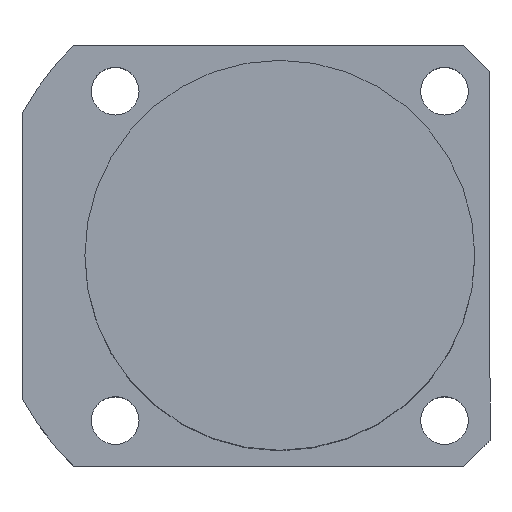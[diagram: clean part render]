
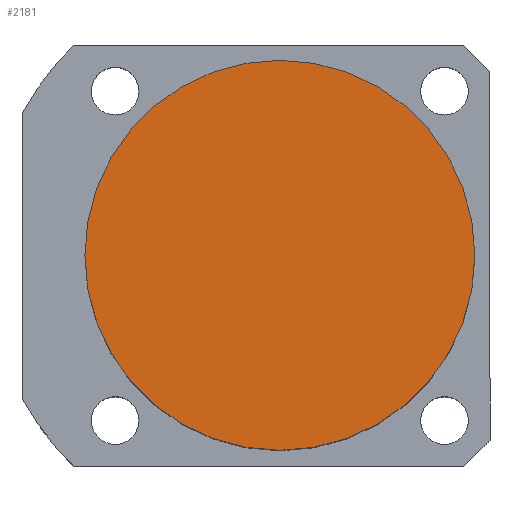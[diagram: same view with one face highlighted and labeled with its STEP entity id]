
A CAD part, top view. The second image highlights one B-rep face of the part: STEP entity #2181.
In plain terms, the highlighted planar face has unit normal (0, 0, 1).
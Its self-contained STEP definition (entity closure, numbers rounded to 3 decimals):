
#141 = DIRECTION ( 'NONE',  ( 0., 0., 1. ) ) ;
#258 = EDGE_LOOP ( 'NONE', ( #1572, #2038 ) ) ;
#329 = EDGE_CURVE ( 'NONE', #783, #432, #752, .T. ) ;
#367 = CIRCLE ( 'NONE', #2030, 45. ) ;
#432 = VERTEX_POINT ( 'NONE', #1901 ) ;
#482 = CARTESIAN_POINT ( 'NONE',  ( 0., 0., 89.5 ) ) ;
#652 = PLANE ( 'NONE',  #1276 ) ;
#658 = DIRECTION ( 'NONE',  ( 1., 0., 0. ) ) ;
#691 = CARTESIAN_POINT ( 'NONE',  ( 0., 0., 89.5 ) ) ;
#717 = FACE_OUTER_BOUND ( 'NONE', #258, .T. ) ;
#752 = CIRCLE ( 'NONE', #2101, 45. ) ;
#783 = VERTEX_POINT ( 'NONE', #995 ) ;
#995 = CARTESIAN_POINT ( 'NONE',  ( -45., 0., 89.5 ) ) ;
#1174 = CARTESIAN_POINT ( 'NONE',  ( 0., 0., 89.5 ) ) ;
#1215 = DIRECTION ( 'NONE',  ( 0., 0., 1. ) ) ;
#1276 = AXIS2_PLACEMENT_3D ( 'NONE', #1174, #141, #658 ) ;
#1340 = DIRECTION ( 'NONE',  ( 0., 0., 1. ) ) ;
#1378 = EDGE_CURVE ( 'NONE', #432, #783, #367, .T. ) ;
#1572 = ORIENTED_EDGE ( 'NONE', *, *, #329, .T. ) ;
#1879 = DIRECTION ( 'NONE',  ( 1., 0., 0. ) ) ;
#1901 = CARTESIAN_POINT ( 'NONE',  ( 45., 0., 89.5 ) ) ;
#2030 = AXIS2_PLACEMENT_3D ( 'NONE', #482, #1340, #2139 ) ;
#2038 = ORIENTED_EDGE ( 'NONE', *, *, #1378, .T. ) ;
#2101 = AXIS2_PLACEMENT_3D ( 'NONE', #691, #1215, #1879 ) ;
#2139 = DIRECTION ( 'NONE',  ( 1., 0., 0. ) ) ;
#2181 = ADVANCED_FACE ( 'NONE', ( #717 ), #652, .T. ) ;
